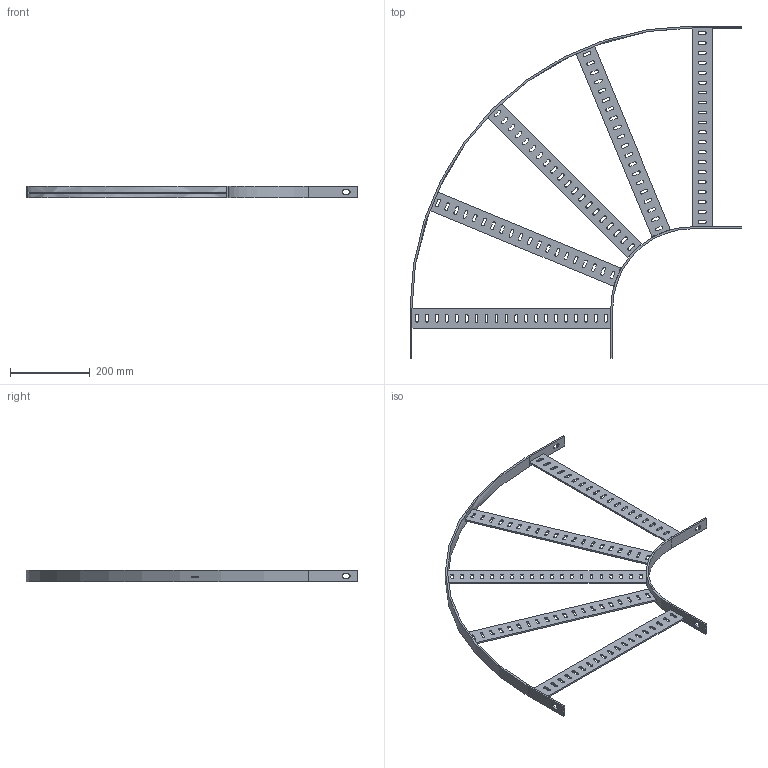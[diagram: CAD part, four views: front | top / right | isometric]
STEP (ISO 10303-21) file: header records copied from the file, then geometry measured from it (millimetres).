
FILE_DESCRIPTION(('Creo Elements/Direct Modeling STEP Export'),'2;1');
FILE_NAME('//pserver/office/EK/ME10-3D/3D-output/SLB 500F.stp','2020-03-10T15:03:20',(''),(''),'PTC Creo Elements/Direct Modeling STEP processor for AP214 (Solid Model)','PTC Creo Elements/Direct Modeling 19.0C 15-Aug-2015 (C) Parametric Technology GmbH','');
FILE_SCHEMA(('AUTOMOTIVE_DESIGN { 1 0 10303 214 1 1 1 1 }'));
Length unit declared in the file: millimetre
Products named in the file (1): SLB_500F
Bounding box: 835 x 835 x 30 mm (x, y, z)
Volume: 733650.6 mm3; surface area: 397603.1 mm2
Topology: 1 solids, 1 shells, 462 faces, 1381 edges, 922 vertices
Faces by surface type: plane 250, cylinder 212
Entity records: 16052 total; most frequent: ORIENTED_EDGE 2792, CARTESIAN_POINT 2747, DIRECTION 2721, EDGE_CURVE 1381, VECTOR 929, LINE 929, VERTEX_POINT 922, AXIS2_PLACEMENT_3D 896
